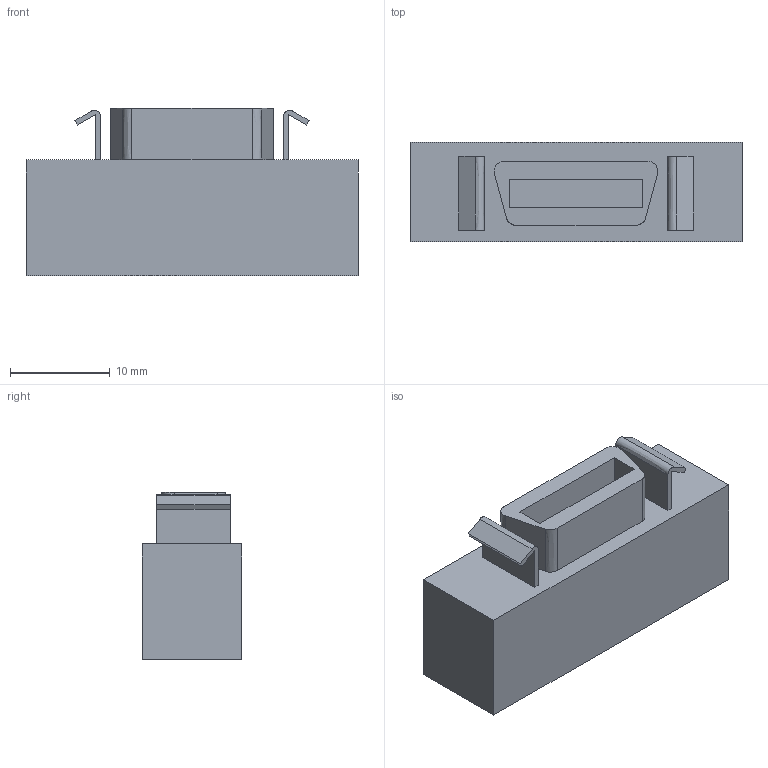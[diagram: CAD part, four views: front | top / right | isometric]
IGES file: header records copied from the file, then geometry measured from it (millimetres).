
Start section:  PTC IGES file: j4b-cn3_1.igs
Global section: file name: j4b-cn3_1.igs; native system: Creo Parametric by Parametric Technology Corporation; preprocessor: 2014310; author: JR20012; organization: Unknown; date: 20160927.133802; units: millimetre
Bounding box: 33.35 x 10 x 16.85 mm (x, y, z)
Volume: 4244.3 mm3; surface area: 2288.4 mm2
Topology: 1 solids, 1 shells, 36 faces, 94 edges, 64 vertices
Faces by surface type: bspline 36
